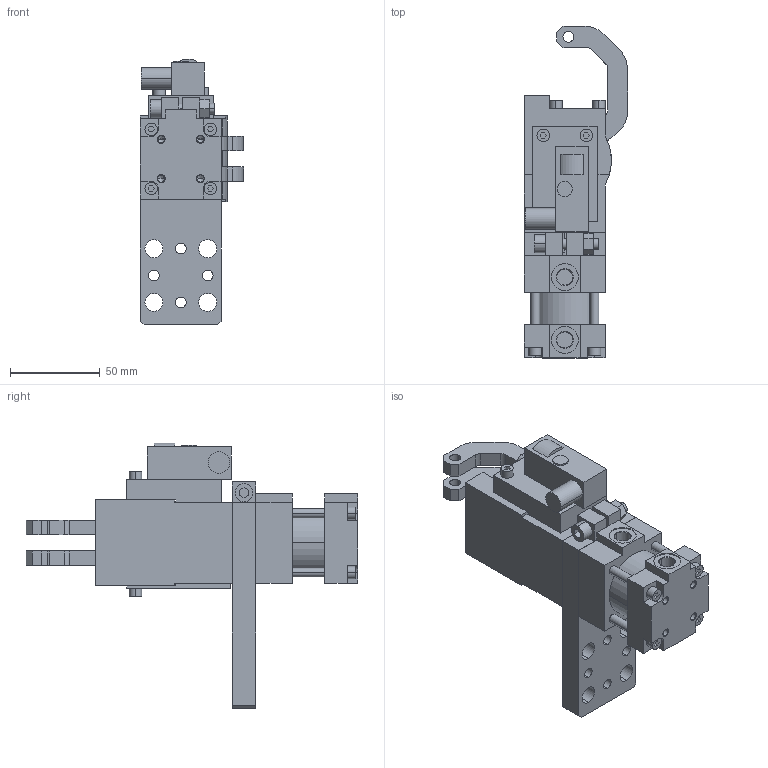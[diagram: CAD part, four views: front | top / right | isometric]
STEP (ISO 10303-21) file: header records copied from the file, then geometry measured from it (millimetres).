
FILE_DESCRIPTION (( 'STEP AP214' ), '1' );
FILE_NAME ('b32_axsx_pla___x_a.STEP', '2018-05-08T12:47:45', ( 'vepadmin' ), ( 'Hewlett-Packard Company' ), 'SwSTEP 2.0', 'SolidWorks 2018', '' );
FILE_SCHEMA (( 'AUTOMOTIVE_DESIGN' ));
Length unit declared in the file: millimetre
Products named in the file (8): riparo_micro_b32; blocchetto_p&f_90; gruppo_cilindro_b32; piastra_a_b32; leva_b32a_x; gruppo_montante_b32a; b32_axsx_pla___x_a; scatola_micro_b32
Assembly tree (7 placements, depth 2):
  b32_axsx_pla___x_a
    gruppo_montante_b32a
    leva_b32a_x
    piastra_a_b32
    gruppo_cilindro_b32
    blocchetto_p&f_90
    riparo_micro_b32
    scatola_micro_b32
Bounding box: 57.5 x 185 x 148.1 mm (x, y, z)
Volume: 359383.1 mm3; surface area: 98523 mm2
Topology: 8 solids, 8 shells, 499 faces, 1283 edges, 835 vertices
Faces by surface type: plane 291, cylinder 174, cone 34
Entity records: 15933 total; most frequent: DIRECTION 2659, CARTESIAN_POINT 2613, ORIENTED_EDGE 2538, EDGE_CURVE 1269, VECTOR 897, LINE 897, AXIS2_PLACEMENT_3D 881, VERTEX_POINT 835
